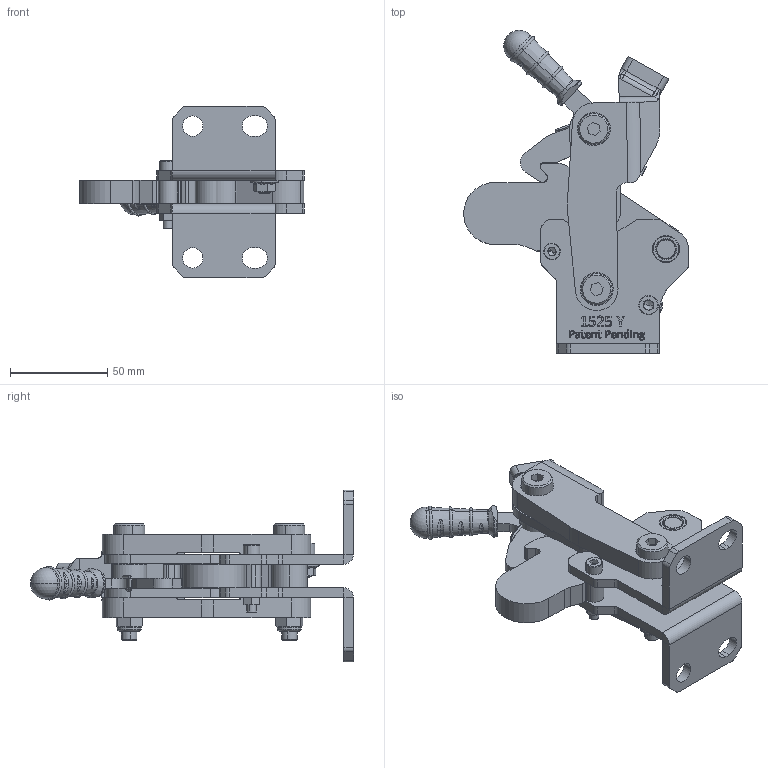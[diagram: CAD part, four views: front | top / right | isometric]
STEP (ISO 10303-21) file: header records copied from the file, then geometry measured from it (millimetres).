
FILE_DESCRIPTION (( 'STEP AP214' ), '1' );
FILE_NAME ('1525_Y.STEP', '2020-07-22T13:46:05', ( '' ), ( '' ), 'SwSTEP 2.0', 'SolidWorks 2019', '' );
FILE_SCHEMA (( 'AUTOMOTIVE_DESIGN' ));
Length unit declared in the file: millimetre
Products named in the file (20): Aynalama1565_Y_Gövde; 1565_Y_Gövde; M8 Fiberli Somun; C45 Tutamak_5x8_5; 1505_MafsalGrubu_Kilitli; M5 Somun; 1535_Cap10x22 Týrtýllý Pim; 1535_Burc_14x10x5; socket head cap screw_iso_ISO 4762 M5 x 30 --- 22N; 1535_Mafsal_5mm; 1505_Aðýr seri_Kilit Yayý; G39x8x10x40; 1535_cap5x12_on paralel burc; socket head cap screw_iso_ISO 4762 M6 x 12 --- 12N; 1505UD KilitGövde; 1535_cap10x18_ara mesafe burcu; hex flange nut gradea_iso_Hexagon Flange Nut ISO - 4161 - M6 - N; 1525_Y; 1505_U_KilitKancal齙Bask齂olu; 1535_dovme mafsal
Assembly tree (32 placements, depth 3):
  1525_Y
    1535_cap10x18_ara mesafe burcu
    1535_Burc_14x10x5  x4
    1565_Y_Gövde
    1535_Cap10x22 Týrtýllý Pim  x2
    1505_U_KilitKancal齙Bask齂olu
    socket head cap screw_iso_ISO 4762 M5 x 30 --- 22N
    1505_MafsalGrubu_Kilitli
      1535_dovme mafsal
      1535_Mafsal_5mm  x2
      1535_Burc_14x10x5  x4
      G39x8x10x40  x2
      1535_cap10x18_ara mesafe burcu  x2
    socket head cap screw_iso_ISO 4762 M6 x 12 --- 12N
    hex flange nut gradea_iso_Hexagon Flange Nut ISO - 4161 - M6 - N
    1535_cap5x12_on paralel burc
    M8 Fiberli Somun  x2
    1505UD KilitGövde
    C45 Tutamak_5x8_5
    1505_Aðýr seri_Kilit Yayý
    Aynalama1565_Y_Gövde
    M5 Somun
Bounding box: 115.76 x 166.52 x 88.49 mm (x, y, z)
Volume: 220426.9 mm3; surface area: 92657 mm2
Topology: 31 solids, 31 shells, 1973 faces, 4984 edges, 3117 vertices
Faces by surface type: plane 1100, cylinder 377, bspline 274, cone 172, torus 48, sphere 2
Entity records: 53751 total; most frequent: CARTESIAN_POINT 21162, ORIENTED_EDGE 6100, DIRECTION 4898, EDGE_CURVE 3050, VERTEX_POINT 1964, VECTOR 1674, LINE 1674, AXIS2_PLACEMENT_3D 1612
